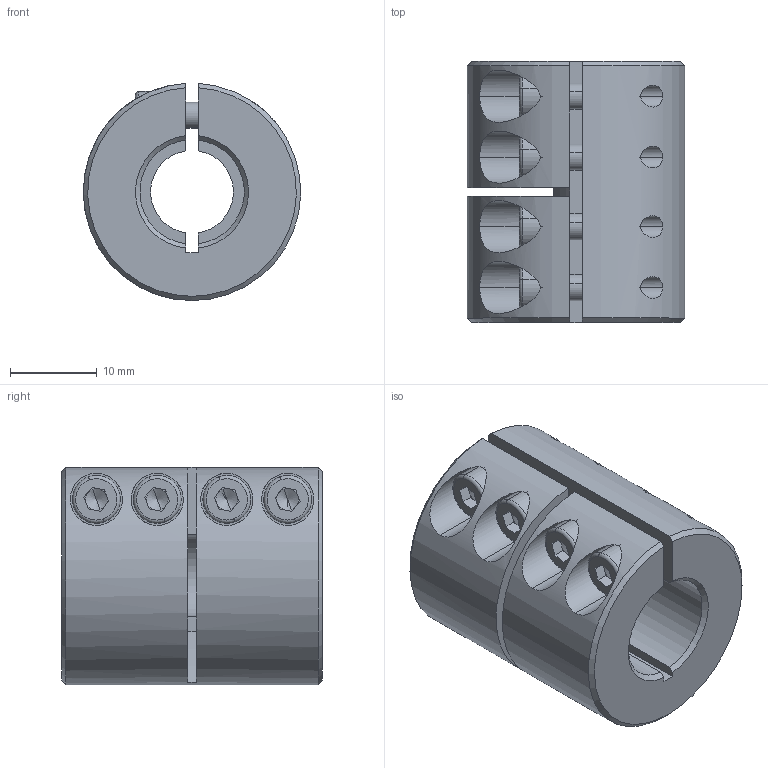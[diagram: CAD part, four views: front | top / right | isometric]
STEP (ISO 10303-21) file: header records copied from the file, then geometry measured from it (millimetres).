
FILE_DESCRIPTION (( 'STEP AP214' ), '1' );
FILE_NAME ('LL-B-D25L30-9.525-12½¨Ä£.STEP', '2022-07-21T03:18:50', ( '' ), ( '' ), 'SwSTEP 2.0', 'SolidWorks 2022', '' );
FILE_SCHEMA (( 'AUTOMOTIVE_DESIGN' ));
Length unit declared in the file: millimetre
Products named in the file (1): LL-B-D25L30-9.525-12膘耀
Bounding box: 24.99 x 30 x 24.98 mm (x, y, z)
Volume: 10968 mm3; surface area: 5899.6 mm2
Topology: 1 solids, 1 shells, 164 faces, 418 edges, 264 vertices
Faces by surface type: plane 83, cylinder 58, cone 15, torus 8
Entity records: 5402 total; most frequent: CARTESIAN_POINT 1363, DIRECTION 862, ORIENTED_EDGE 820, EDGE_CURVE 410, AXIS2_PLACEMENT_3D 331, VERTEX_POINT 264, VECTOR 200, LINE 200
